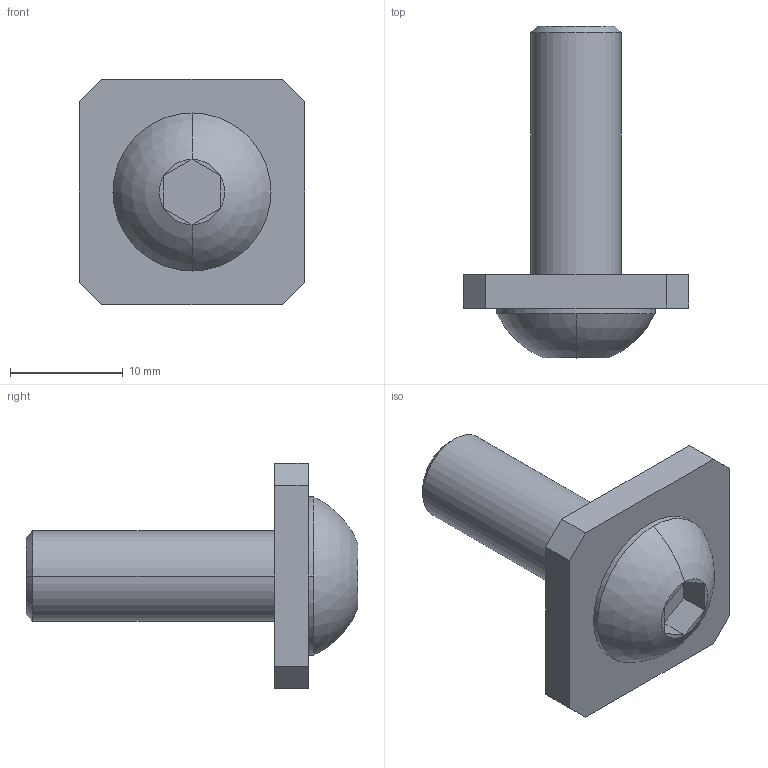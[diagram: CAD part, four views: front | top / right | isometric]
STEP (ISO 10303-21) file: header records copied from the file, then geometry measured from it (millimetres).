
FILE_DESCRIPTION((''),'2;1');
FILE_NAME('KT003_ASM','2002-12-27T',('Lipro doo'),('Lipro d.o.o.'),'PRO/ENGINEER BY PARAMETRIC TECHNOLOGY CORPORATION, 2001150','PRO/ENGINEER BY PARAMETRIC TECHNOLOGY CORPORATION, 2001150','');
FILE_SCHEMA(('CONFIG_CONTROL_DESIGN'));
Length unit declared in the file: millimetre
Products named in the file (3): VTBEI0825; ROQ0810S; KT003_ASM
Assembly tree (2 placements, depth 2):
  KT003_ASM
    VTBEI0825
    ROQ0810S
Bounding box: 20 x 29.4 x 20 mm (x, y, z)
Volume: 2672.9 mm3; surface area: 2571.1 mm2
Topology: 2 solids, 3 shells, 37 faces, 80 edges, 48 vertices
Faces by surface type: plane 25, cylinder 8, cone 2, sphere 2
Entity records: 1101 total; most frequent: DIRECTION 196, CARTESIAN_POINT 172, ORIENTED_EDGE 156, EDGE_CURVE 80, AXIS2_PLACEMENT_3D 72, VECTOR 52, LINE 52, VERTEX_POINT 48
